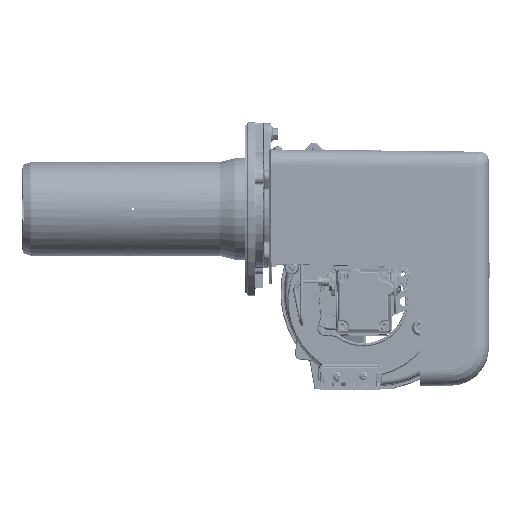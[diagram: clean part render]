
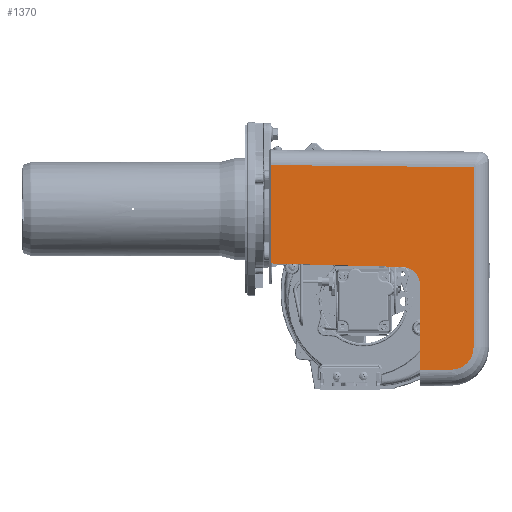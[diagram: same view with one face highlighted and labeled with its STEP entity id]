
A CAD part, top view. The second image highlights one B-rep face of the part: STEP entity #1370.
In plain terms, the highlighted planar face has unit normal (0.026, 0, 1).
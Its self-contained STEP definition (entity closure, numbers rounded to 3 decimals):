
#1370=ADVANCED_FACE('',(#19358),#19360,.F.);
#19358=FACE_BOUND('',#19359,.T.);
#19359=EDGE_LOOP('',(#74772,#74773,#74774,#74775,#74776,#74777,#74778,#74779,#74780));
#19360=PLANE('',#19361);
#19361=AXIS2_PLACEMENT_3D('',#19362,#19363,#19364);
#19362=CARTESIAN_POINT('',(138.585,-175.,225.599));
#19363=DIRECTION('',(-0.026,0.,-1.));
#19364=DIRECTION('',(-1.,0.,0.026));
#74772=ORIENTED_EDGE('',*,*,#124963,.F.);
#74773=ORIENTED_EDGE('',*,*,#124961,.T.);
#74774=ORIENTED_EDGE('',*,*,#124992,.T.);
#74775=ORIENTED_EDGE('',*,*,#124993,.T.);
#74776=ORIENTED_EDGE('',*,*,#124994,.T.);
#74777=ORIENTED_EDGE('',*,*,#124995,.F.);
#74778=ORIENTED_EDGE('',*,*,#124996,.F.);
#74779=ORIENTED_EDGE('',*,*,#123329,.F.);
#74780=ORIENTED_EDGE('',*,*,#123133,.F.);
#123133=EDGE_CURVE('',#147513,#147515,#147516,.T.);
#123329=EDGE_CURVE('',#147515,#147805,#147806,.T.);
#124961=EDGE_CURVE('',#150512,#150510,#150513,.T.);
#124963=EDGE_CURVE('',#150512,#147513,#150515,.T.);
#124992=EDGE_CURVE('',#150510,#150569,#150570,.T.);
#124993=EDGE_CURVE('',#150569,#150571,#150572,.T.);
#124994=EDGE_CURVE('',#150571,#150573,#150574,.T.);
#124995=EDGE_CURVE('',#150575,#150573,#150576,.T.);
#124996=EDGE_CURVE('',#147805,#150575,#150577,.T.);
#147513=VERTEX_POINT('',#195530);
#147515=VERTEX_POINT('',#195613);
#147516=LINE('',#195614,#195615);
#147805=VERTEX_POINT('',#200173);
#147806=LINE('',#200174,#200175);
#150510=VERTEX_POINT('',#216994);
#150512=VERTEX_POINT('',#216998);
#150513=CIRCLE('',#216999,3.);
#150515=LINE('',#217006,#217007);
#150569=VERTEX_POINT('',#218543);
#150570=LINE('',#218544,#218545);
#150571=VERTEX_POINT('',#218547);
#150572=CIRCLE('',#218548,20.);
#150573=VERTEX_POINT('',#218552);
#150574=LINE('',#218553,#218554);
#150575=VERTEX_POINT('',#218556);
#150576=LINE('',#218557,#218558);
#150577=B_SPLINE_CURVE_WITH_KNOTS('',3,
(#218560,#218561,#218562,#218563,#218564,#218565,#218566,#218567,#218568,#218569,
#218570,#218571),
.UNSPECIFIED.,.F.,.F.,
(4,2,2,2,2,4),
(0.,0.231,0.451,0.666,0.883,1.),
.UNSPECIFIED.);
#195530=CARTESIAN_POINT('',(-104.319,153.191,231.96));
#195613=CARTESIAN_POINT('',(123.977,150.8,225.982));
#195614=CARTESIAN_POINT('',(-104.319,153.191,231.96));
#195615=VECTOR('',#195616,1.);
#195616=DIRECTION('',(1.,-0.01,-0.026));
#200173=CARTESIAN_POINT('',(123.977,-52.07,225.982));
#200174=CARTESIAN_POINT('',(123.977,150.8,225.982));
#200175=VECTOR('',#200176,1.);
#200176=DIRECTION('',(0.,-1.,0.));
#216994=CARTESIAN_POINT('',(-101.399,42.32,231.883));
#216998=CARTESIAN_POINT('',(-104.319,45.319,231.96));
#216999=AXIS2_PLACEMENT_3D('',#217000,#217001,#217002);
#217000=CARTESIAN_POINT('',(-101.32,45.319,231.881));
#217001=DIRECTION('',(0.026,0.,1.));
#217002=DIRECTION('',(-1.,0.,0.026));
#217006=CARTESIAN_POINT('',(-104.319,45.319,231.96));
#217007=VECTOR('',#217008,1.);
#217008=DIRECTION('',(0.,1.,0.));
#218543=CARTESIAN_POINT('',(44.115,38.51,228.073));
#218544=CARTESIAN_POINT('',(-101.399,42.32,231.883));
#218545=VECTOR('',#218546,1.);
#218546=DIRECTION('',(0.999,-0.026,-0.026));
#218547=CARTESIAN_POINT('',(63.585,18.517,227.563));
#218548=AXIS2_PLACEMENT_3D('',#218549,#218550,#218551);
#218549=CARTESIAN_POINT('',(43.592,18.517,228.087));
#218550=DIRECTION('',(-0.026,0.,-1.));
#218551=DIRECTION('',(0.026,1.,-0.001));
#218552=CARTESIAN_POINT('',(63.585,-78.005,227.563));
#218553=CARTESIAN_POINT('',(63.585,18.517,227.563));
#218554=VECTOR('',#218555,1.);
#218555=DIRECTION('',(0.,-1.,0.));
#218556=CARTESIAN_POINT('',(99.632,-77.061,226.619));
#218557=CARTESIAN_POINT('',(99.632,-77.061,226.619));
#218558=VECTOR('',#218559,1.);
#218559=DIRECTION('',(-0.999,-0.026,0.026));
#218560=CARTESIAN_POINT('',(123.977,-52.07,225.982));
#218561=CARTESIAN_POINT('',(123.759,-54.9,225.987));
#218562=CARTESIAN_POINT('',(123.54,-57.73,225.993));
#218563=CARTESIAN_POINT('',(121.568,-63.047,226.045));
#218564=CARTESIAN_POINT('',(120.061,-65.824,226.084));
#218565=CARTESIAN_POINT('',(116.403,-70.207,226.18));
#218566=CARTESIAN_POINT('',(113.998,-72.22,226.243));
#218567=CARTESIAN_POINT('',(109.2,-75.08,226.369));
#218568=CARTESIAN_POINT('',(106.398,-76.067,226.442));
#218569=CARTESIAN_POINT('',(102.414,-76.885,226.546));
#218570=CARTESIAN_POINT('',(101.023,-76.973,226.583));
#218571=CARTESIAN_POINT('',(99.632,-77.061,226.619));
